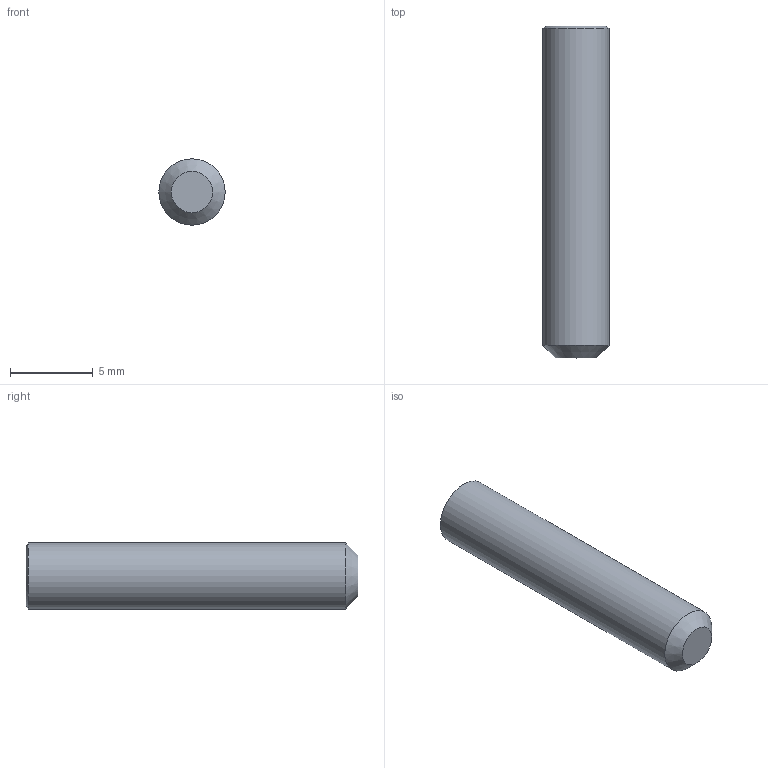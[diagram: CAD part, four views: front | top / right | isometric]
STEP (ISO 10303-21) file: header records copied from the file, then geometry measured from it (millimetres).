
FILE_DESCRIPTION(/* description */ (''),/* implementation_level */ '2;1');
FILE_NAME(/* name */ 'C:\Users\D\Documents\Inventor\各種小物\JIS\止めねじ\平先\M4\M4x20.stp',/* time_stamp */ '2022-06-23T14:24:09+09:00',/* author */ ('D'),/* organization */ (''),/* preprocessor_version */ 'ST-DEVELOPER v18',/* originating_system */ 'Autodesk Inventor 2020',/* authorisation */ '');
FILE_SCHEMA (('AUTOMOTIVE_DESIGN { 1 0 10303 214 3 1 1 }'));
Length unit declared in the file: millimetre
Products named in the file (1): M1.6x2
Bounding box: 4 x 20 x 4 mm (x, y, z)
Volume: 238.5 mm3; surface area: 287.3 mm2
Topology: 1 solids, 1 shells, 12 faces, 28 edges, 18 vertices
Faces by surface type: plane 8, cone 3, cylinder 1
Full cylindrical faces by diameter (mm): 4 x1
Entity records: 369 total; most frequent: CARTESIAN_POINT 72, ORIENTED_EDGE 54, DIRECTION 50, EDGE_CURVE 27, VERTEX_POINT 18, AXIS2_PLACEMENT_3D 17, LINE 16, VECTOR 16
